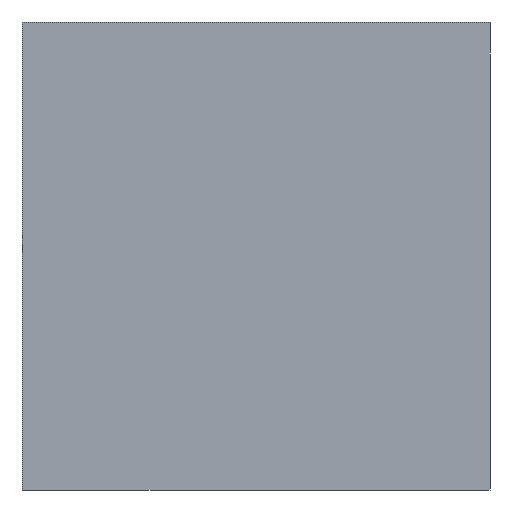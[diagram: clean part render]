
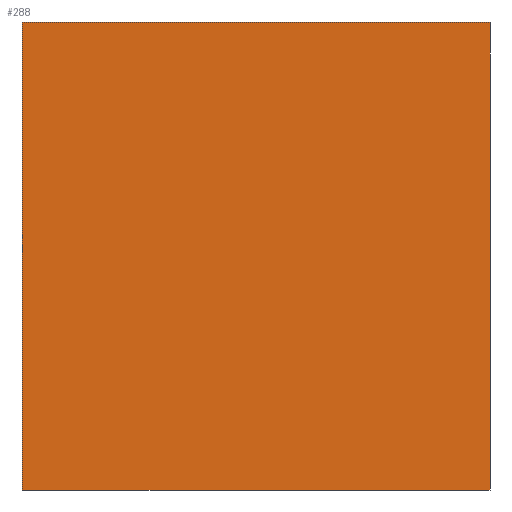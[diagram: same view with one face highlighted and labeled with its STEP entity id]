
A CAD part, left-side view. The second image highlights one B-rep face of the part: STEP entity #288.
In plain terms, the highlighted planar face has unit normal (-1, 0, 0).
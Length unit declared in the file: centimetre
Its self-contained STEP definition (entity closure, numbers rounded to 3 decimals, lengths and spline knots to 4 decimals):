
#9 = EDGE_CURVE ( 'NONE', #95, #227, #63, .T. ) ;
#17 = AXIS2_PLACEMENT_3D ( 'NONE', #303, #396, #22 ) ;
#22 = DIRECTION ( 'NONE',  ( 0., 0., -1. ) ) ;
#27 = VECTOR ( 'NONE', #333, 100. ) ;
#29 = CARTESIAN_POINT ( 'NONE',  ( 0., 1000., 1000. ) ) ;
#37 = LINE ( 'NONE', #29, #175 ) ;
#42 = DIRECTION ( 'NONE',  ( 0., -1., 0. ) ) ;
#63 = LINE ( 'NONE', #192, #78 ) ;
#78 = VECTOR ( 'NONE', #313, 100. ) ;
#86 = CARTESIAN_POINT ( 'NONE',  ( 0., 0., 0. ) ) ;
#90 = ORIENTED_EDGE ( 'NONE', *, *, #194, .T. ) ;
#95 = VERTEX_POINT ( 'NONE', #308 ) ;
#114 = EDGE_LOOP ( 'NONE', ( #90, #124, #241, #360 ) ) ;
#124 = ORIENTED_EDGE ( 'NONE', *, *, #9, .F. ) ;
#145 = VECTOR ( 'NONE', #42, 100. ) ;
#152 = EDGE_CURVE ( 'NONE', #331, #95, #37, .T. ) ;
#153 = CARTESIAN_POINT ( 'NONE',  ( 0., 1000., 1000. ) ) ;
#154 = VERTEX_POINT ( 'NONE', #379 ) ;
#174 = CARTESIAN_POINT ( 'NONE',  ( 0., 1000., 1000. ) ) ;
#175 = VECTOR ( 'NONE', #403, 100. ) ;
#186 = FACE_OUTER_BOUND ( 'NONE', #114, .T. ) ;
#192 = CARTESIAN_POINT ( 'NONE',  ( 0., 0., 1000. ) ) ;
#194 = EDGE_CURVE ( 'NONE', #154, #227, #293, .T. ) ;
#201 = EDGE_CURVE ( 'NONE', #331, #154, #208, .T. ) ;
#208 = LINE ( 'NONE', #174, #27 ) ;
#227 = VERTEX_POINT ( 'NONE', #86 ) ;
#241 = ORIENTED_EDGE ( 'NONE', *, *, #152, .F. ) ;
#275 = PLANE ( 'NONE',  #17 ) ;
#288 = ADVANCED_FACE ( 'NONE', ( #186 ), #275, .F. ) ;
#293 = LINE ( 'NONE', #389, #145 ) ;
#303 = CARTESIAN_POINT ( 'NONE',  ( 0., 1000., 1000. ) ) ;
#308 = CARTESIAN_POINT ( 'NONE',  ( 0., 0., 1000. ) ) ;
#313 = DIRECTION ( 'NONE',  ( 0., 0., -1. ) ) ;
#331 = VERTEX_POINT ( 'NONE', #153 ) ;
#333 = DIRECTION ( 'NONE',  ( 0., 0., -1. ) ) ;
#360 = ORIENTED_EDGE ( 'NONE', *, *, #201, .T. ) ;
#379 = CARTESIAN_POINT ( 'NONE',  ( 0., 1000., 0. ) ) ;
#389 = CARTESIAN_POINT ( 'NONE',  ( 0., 1000., 0. ) ) ;
#396 = DIRECTION ( 'NONE',  ( 1., 0., 0. ) ) ;
#403 = DIRECTION ( 'NONE',  ( 0., -1., 0. ) ) ;
